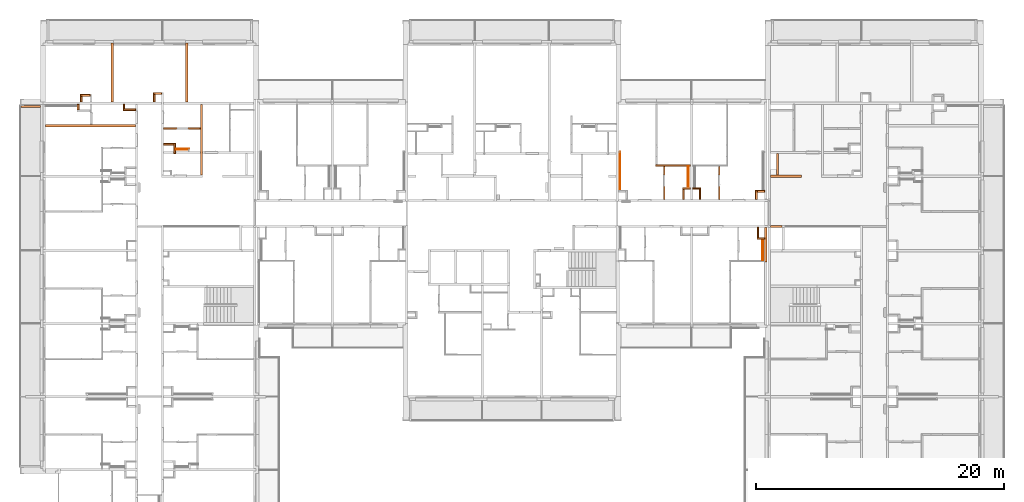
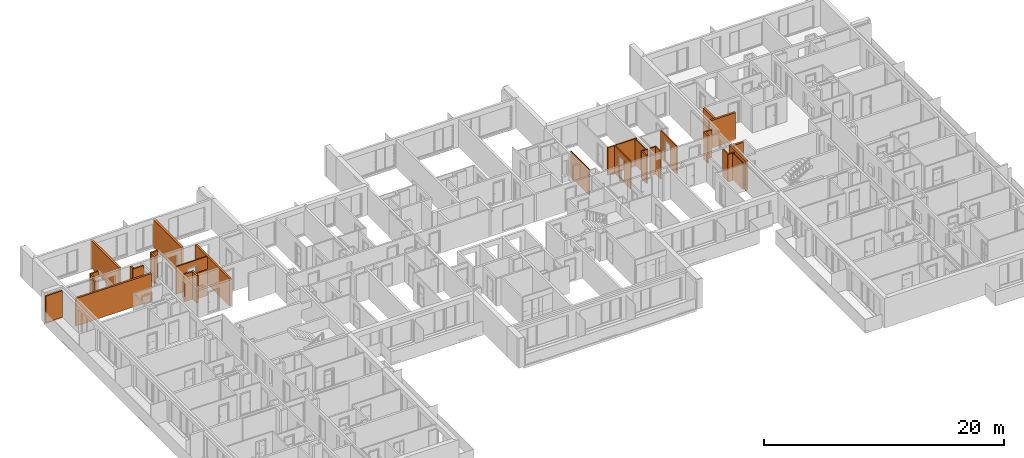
# One storey, part 57 of 64: 34 proxies, 3 openings.
"""IFC2X3 building model written with IfcOpenShell, lengths in millimetres."""

from ifc_helpers import new_model, entity, si_unit, converted_unit, derived_unit, money_unit, direction, frame, origin_with_axes, origin_2d_with_axis, place, context, subcontext, project, spatial, rectangle, extrude, faceted_brep, material, material_list, type_object, element, save


model = new_model("IFC2X3")

# Units and contexts
model_context = context("Model", 3, precision=0.01, world=origin_with_axes(), true_north=direction((0.34421633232, 0.938890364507)))
body_context = subcontext(model_context, "Body", "Model", "MODEL_VIEW")
ifc_project = project(units=[si_unit("LENGTHUNIT", "METRE", prefix="MILLI"), si_unit("AREAUNIT", "SQUARE_METRE"), si_unit("VOLUMEUNIT", "CUBIC_METRE"), converted_unit("PLANEANGLEUNIT", "DEGREE", entity("IfcPlaneAngleMeasure", 0.0174532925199), si_unit("PLANEANGLEUNIT", "RADIAN"), dimensions=[0, 0, 0, 0, 0, 0, 0]), si_unit("SOLIDANGLEUNIT", "STERADIAN"), money_unit("USD"), converted_unit("TIMEUNIT", "Year", entity("IfcTimeMeasure", 31556926.0), si_unit("TIMEUNIT", "SECOND"), dimensions=[0, 0, 1, 0, 0, 0, 0]), si_unit("MASSUNIT", "GRAM", prefix="KILO"), si_unit("THERMODYNAMICTEMPERATUREUNIT", "DEGREE_CELSIUS"), si_unit("LUMINOUSINTENSITYUNIT", "LUMEN"), si_unit("ENERGYUNIT", "JOULE", prefix="MEGA"), derived_unit("THERMALCONDUCTANCEUNIT", [(si_unit("POWERUNIT", "WATT"), 1), (si_unit("LENGTHUNIT", "METRE"), -1), (si_unit("THERMODYNAMICTEMPERATUREUNIT", "KELVIN"), -1)]), derived_unit("SPECIFICHEATCAPACITYUNIT", [(si_unit("ENERGYUNIT", "JOULE"), 1), (si_unit("MASSUNIT", "GRAM", prefix="KILO"), -1), (si_unit("THERMODYNAMICTEMPERATUREUNIT", "KELVIN"), -1)]), derived_unit("MASSDENSITYUNIT", [(si_unit("MASSUNIT", "GRAM", prefix="KILO"), 1), (si_unit("VOLUMEUNIT", "CUBIC_METRE"), -1)])], contexts=[model_context])

# Site, building, storey
site_placement = place(None, origin_with_axes())
site = spatial("IfcSite", under=ifc_project, at=site_placement, Name="USTRONIE MORSKIE", CompositionType="ELEMENT")
building_placement = place(site_placement, origin_with_axes())
building = spatial("IfcBuilding", under=site, at=building_placement, Name="Budynek", CompositionType="ELEMENT")
storey_placement = place(building_placement, frame((0.0, 0.0, 7000.0), z_axis=(0.0, 0.0, 1.0), x_axis=(1.0, 0.0, 0.0)))
storey = spatial("IfcBuildingStorey", under=building, at=storey_placement, Name="PIĘTRO 2", CompositionType="ELEMENT", Elevation=7000.0)

# Proxies
ifc_material_1 = material(Name="Bloczki silikatowe")
building_element_proxy_type_1 = type_object("IfcBuildingElementProxyType", Name="Bloczki silikatowe 120", PredefinedType="NOTDEFINED")
proxy_1_placement = place(storey_placement, frame((402317.920919, 737751.199937, -160.0), z_axis=(0.0, 0.0, 1.0), x_axis=(1.0, 0.0, 0.0)))
element("IfcBuildingElementProxy", 1, at=proxy_1_placement, inside=storey, type_object=building_element_proxy_type_1, material=ifc_material_1, Name="SW-04", context=body_context, shape_type="Brep", body=[
    faceted_brep([(720.0, 120.0, 0.0), (720.0, 0.0, 0.0), (100.0, 0.0, 0.0), (100.0, 120.0, 0.0), (720.0, 120.0, 2800.0), (720.0, 0.0, 2800.0), (100.0, 0.0, 2800.0), (100.0, 120.0, 2800.0)], [[[0, 1, 2, 3]], [[1, 0, 4, 5]], [[1, 5, 6, 2]], [[7, 3, 2, 6]], [[4, 0, 3, 7]], [[5, 4, 7, 6]]]),
])
proxy_2_placement = place(storey_placement, frame((408317.920919, 733851.183064, -160.0), z_axis=(0.0, 0.0, 1.0), x_axis=(-0.999999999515, 3.11484020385e-05, 0.0)))
element("IfcBuildingElementProxy", 2, at=proxy_2_placement, inside=storey, type_object=building_element_proxy_type_1, material=ifc_material_1, Name="SW-04", context=body_context, shape_type="Brep", body=[
    faceted_brep([(719.979557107, -1.13686837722e-10, 2800.0), (719.972081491, 120.0, 2800.0), (99.9962622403, 120.0, 2800.0), (100.000000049, -1.13686837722e-10, 2800.0), (719.979557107, -1.13686837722e-10, 0.0), (719.972081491, 120.0, 0.0), (99.9962622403, 120.0, 0.0), (100.000000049, -1.13686837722e-10, 0.0)], [[[0, 1, 2, 3]], [[1, 0, 4, 5]], [[1, 5, 6, 2]], [[7, 3, 2, 6]], [[4, 0, 3, 7]], [[5, 4, 7, 6]]]),
])

# Proxy, opening
proxy_3_placement = place(storey_placement, frame((400097.920919, 739651.199937, -160.0), z_axis=(0.0, 0.0, 1.0), x_axis=(0.0, -1.0, 0.0)))
proxy_3 = element("IfcBuildingElementProxy", 3, at=proxy_3_placement, inside=storey, type_object=building_element_proxy_type_1, material=ifc_material_1, Name="SW-04", context=body_context, shape_type="Brep", body=[
    faceted_brep([(2720.00090117, -60.0, 2800.0), (2720.00090117, 60.0, 2800.0), (59.9999999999, 60.0, 2800.0), (59.9999999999, -60.0, 2800.0), (2720.00090117, -60.0, 0.0), (2720.00090117, 60.0, 0.0), (59.9999999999, 60.0, 0.0), (59.9999999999, -60.0, 0.0)], [[[0, 1, 2, 3]], [[1, 0, 4, 5]], [[1, 5, 6, 2]], [[7, 3, 2, 6]], [[4, 0, 3, 7]], [[5, 4, 7, 6]]]),
])
opening_1_placement = place(proxy_3_placement, frame((1200.00090117, 0.0, 160.0), z_axis=(0.0, 0.0, 1.0), x_axis=(1.0, 0.0, 0.0)))
element("IfcOpeningElement", 4, at=opening_1_placement, cuts=proxy_3, Name="Dw.4", context=body_context, shape_type="SweptSolid", body=[
    extrude(rectangle(XDim=920.0, YDim=2070.0, at=origin_2d_with_axis()), frame((0.0, 120.0, 1035.0), z_axis=(0.0, -1.0, 0.0), x_axis=(-1.0, 0.0, 0.0)), (0.0, 0.0, 1.0), 360.0),
    extrude(rectangle(XDim=994.0, YDim=2177.0, at=origin_2d_with_axis()), frame((0.0, 60.0, 1088.5), z_axis=(0.0, -1.0, 0.0), x_axis=(-1.0, 0.0, 0.0)), (0.0, 0.0, -1.0), 120.0),
    extrude(rectangle(XDim=994.0, YDim=2177.0, at=origin_2d_with_axis()), frame((0.0, -60.0, 1088.5), z_axis=(0.0, 1.0, 0.0), x_axis=(-1.0, 0.0, 0.0)), (0.0, 0.0, -1.0), 120.0),
])

# Proxies
proxy_4_placement = place(storey_placement, frame((401717.920919, 737751.199937, -160.0), z_axis=(0.0, 0.0, 1.0), x_axis=(0.0, -1.0, 0.0)))
element("IfcBuildingElementProxy", 5, at=proxy_4_placement, inside=storey, type_object=building_element_proxy_type_1, material=ifc_material_1, Name="SW-04", context=body_context, shape_type="Brep", body=[
    faceted_brep([(820.00090117, -120.0, 2800.0), (820.00090117, 0.0, 2800.0), (0.0, 0.0, 2800.0), (0.0, -120.0, 2800.0), (820.00090117, -120.0, 0.0), (820.00090117, 0.0, 0.0), (0.0, 0.0, 0.0), (0.0, -120.0, 0.0)], [[[0, 1, 2, 3]], [[1, 0, 4, 5]], [[1, 5, 6, 2]], [[7, 3, 2, 6]], [[4, 0, 3, 7]], [[5, 4, 7, 6]]]),
])
proxy_5_placement = place(storey_placement, frame((407717.913329, 734751.199287, -160.0), z_axis=(0.0, 0.0, 1.0), x_axis=(3.11484009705e-05, -0.999999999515, 0.0)))
element("IfcBuildingElementProxy", 6, at=proxy_5_placement, inside=storey, type_object=building_element_proxy_type_1, material=ifc_material_1, Name="SW-04", context=body_context, shape_type="Brep", body=[
    faceted_brep([(899.997535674, 0.0, 0.0), (899.990060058, -120.0, 0.0), (79.996225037, -120.0, 0.0), (80.0000000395, 0.0, 0.0), (899.997535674, 0.0, 2800.0), (899.990060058, -120.0, 2800.0), (79.996225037, -120.0, 2800.0), (80.0000000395, 0.0, 2800.0)], [[[0, 1, 2, 3]], [[1, 0, 4, 5]], [[1, 5, 6, 2]], [[7, 3, 2, 6]], [[4, 0, 3, 7]], [[5, 4, 7, 6]]]),
])
proxy_6_placement = place(storey_placement, frame((402917.920919, 737751.199937, -160.0), z_axis=(0.0, 0.0, 1.0), x_axis=(0.0, -1.0, 0.0)))
element("IfcBuildingElementProxy", 7, at=proxy_6_placement, inside=storey, type_object=building_element_proxy_type_1, material=ifc_material_1, Name="SW-04", context=body_context, shape_type="Brep", body=[
    faceted_brep([(820.00090117, 120.0, 0.0), (820.00090117, 0.0, 0.0), (0.0, 0.0, 0.0), (0.0, 120.0, 0.0), (820.00090117, 120.0, 2800.0), (820.00090117, 0.0, 2800.0), (0.0, 0.0, 2800.0), (0.0, 120.0, 2800.0)], [[[0, 1, 2, 3]], [[1, 0, 4, 5]], [[1, 5, 6, 2]], [[7, 3, 2, 6]], [[4, 0, 3, 7]], [[5, 4, 7, 6]]]),
])
proxy_7_placement = place(storey_placement, frame((402317.920919, 737751.199937, -160.0), z_axis=(0.0, 0.0, 1.0), x_axis=(-1.0, 0.0, 0.0)))
element("IfcBuildingElementProxy", 8, at=proxy_7_placement, inside=storey, type_object=building_element_proxy_type_1, material=ifc_material_1, Name="SW-04", context=body_context, shape_type="Brep", body=[
    faceted_brep([(720.0, 0.0, 2800.0), (100.0, 0.0, 2800.0), (100.0, -120.0, 2800.0), (720.0, -120.0, 2800.0), (720.0, 0.0, 0.0), (100.0, 0.0, 0.0), (100.0, -120.0, 0.0), (720.0, -120.0, 0.0)], [[[0, 1, 2, 3]], [[4, 5, 1, 0]], [[5, 6, 2, 1]], [[3, 2, 6, 7]], [[7, 4, 0, 3]], [[7, 6, 5, 4]]]),
])

# Proxy, opening
proxy_8_placement = place(storey_placement, frame((404537.920919, 739651.199937, -160.0), z_axis=(0.0, 0.0, 1.0), x_axis=(0.0, -1.0, 0.0)))
proxy_8 = element("IfcBuildingElementProxy", 9, at=proxy_8_placement, inside=storey, type_object=building_element_proxy_type_1, material=ifc_material_1, Name="SW-04", context=body_context, shape_type="Brep", body=[
    faceted_brep([(2720.00090117, 60.0, 0.0), (2720.00090117, -60.0, 0.0), (59.9999999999, -60.0, 0.0), (59.9999999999, 60.0, 0.0), (2720.00090117, 60.0, 2800.0), (2720.00090117, -60.0, 2800.0), (59.9999999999, -60.0, 2800.0), (59.9999999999, 60.0, 2800.0)], [[[0, 1, 2, 3]], [[1, 0, 4, 5]], [[1, 5, 6, 2]], [[7, 3, 2, 6]], [[4, 0, 3, 7]], [[5, 4, 7, 6]]]),
])
opening_2_placement = place(proxy_8_placement, frame((1200.00090117, 0.0, 160.0), z_axis=(0.0, 0.0, 1.0), x_axis=(1.0, 0.0, 0.0)))
element("IfcOpeningElement", 10, at=opening_2_placement, cuts=proxy_8, Name="Dw.4", context=body_context, shape_type="SweptSolid", body=[
    extrude(rectangle(XDim=920.0, YDim=2070.0, at=origin_2d_with_axis()), frame((0.0, -120.0, 1035.0), z_axis=(0.0, -1.0, 0.0), x_axis=(-1.0, 0.0, 0.0)), (0.0, 0.0, -1.0), 360.0),
    extrude(rectangle(XDim=994.0, YDim=2177.0, at=origin_2d_with_axis()), frame((0.0, -60.0, 1088.5), z_axis=(0.0, -1.0, 0.0), x_axis=(-1.0, 0.0, 0.0)), (0.0, 0.0, 1.0), 120.0),
    extrude(rectangle(XDim=994.0, YDim=2177.0, at=origin_2d_with_axis()), frame((0.0, 60.0, 1088.5), z_axis=(0.0, 1.0, 0.0), x_axis=(-1.0, 0.0, 0.0)), (0.0, 0.0, 1.0), 120.0),
])

# Proxy
proxy_9_placement = place(storey_placement, frame((399467.913786, 739651.199937, -160.0), z_axis=(0.0, 0.0, 1.0), x_axis=(1.0, 0.0, 0.0)))
element("IfcBuildingElementProxy", 11, at=proxy_9_placement, inside=storey, type_object=building_element_proxy_type_1, material=ifc_material_1, Name="SW-04", context=body_context, shape_type="Brep", body=[
    faceted_brep([(-60.0, -59.9999999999, 2800.0), (2750.00713284, -59.9999999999, 2800.0), (2750.00713284, 59.9999999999, 2800.0), (-60.0, 59.9999999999, 2800.0), (-60.0, -59.9999999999, 0.0), (2750.00713284, -59.9999999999, 0.0), (2750.00713284, 59.9999999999, 0.0), (-60.0, 59.9999999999, 0.0)], [[[0, 1, 2, 3]], [[4, 5, 1, 0]], [[5, 6, 2, 1]], [[3, 2, 6, 7]], [[3, 7, 4, 0]], [[7, 6, 5, 4]]]),
])

# Proxy, opening
proxy_10_placement = place(storey_placement, frame((359617.920919, 742661.199128, -160.0), z_axis=(0.0, 0.0, 1.0), x_axis=(1.0, 0.0, 0.0)))
proxy_10 = element("IfcBuildingElementProxy", 12, at=proxy_10_placement, inside=storey, type_object=building_element_proxy_type_1, material=ifc_material_1, Name="SW-04", context=body_context, shape_type="Brep", body=[
    faceted_brep([(3049.99995481, -59.9999999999, 2800.0), (3049.99995481, 59.9999999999, 2800.0), (80.0, 59.9999999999, 2800.0), (80.0, -59.9999999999, 2800.0), (3049.99995481, -59.9999999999, 0.0), (3049.99995481, 59.9999999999, 0.0), (80.0, 59.9999999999, 0.0), (80.0, -59.9999999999, 0.0)], [[[0, 1, 2, 3]], [[1, 0, 4, 5]], [[1, 5, 6, 2]], [[7, 3, 2, 6]], [[4, 0, 3, 7]], [[5, 4, 7, 6]]]),
])
opening_3_placement = place(proxy_10_placement, frame((1600.00179464, 0.0, 160.0), z_axis=(0.0, 0.0, 1.0), x_axis=(1.0, 0.0, 0.0)))
element("IfcOpeningElement", 13, at=opening_3_placement, cuts=proxy_10, Name="Dw.4", context=body_context, shape_type="SweptSolid", body=[
    extrude(rectangle(XDim=920.0, YDim=2070.0, at=origin_2d_with_axis()), frame((0.0, -120.0, 1035.0), z_axis=(0.0, 1.0, 0.0), x_axis=(1.0, 0.0, 0.0)), (0.0, 0.0, 1.0), 360.0),
    extrude(rectangle(XDim=994.0, YDim=2177.0, at=origin_2d_with_axis()), frame((0.0, -59.9999999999, 1088.5), z_axis=(0.0, 1.0, 0.0), x_axis=(1.0, 0.0, 0.0)), (0.0, 0.0, -1.0), 120.0),
    extrude(rectangle(XDim=994.0, YDim=2177.0, at=origin_2d_with_axis()), frame((0.0, 60.0000000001, 1088.5), z_axis=(0.0, -1.0, 0.0), x_axis=(1.0, 0.0, 0.0)), (0.0, 0.0, -1.0), 120.0),
])

# Proxies
building_element_proxy_type_2 = type_object("IfcBuildingElementProxyType", Name="Bloczki silikatowe 180", PredefinedType="NOTDEFINED")
proxy_11_placement = place(storey_placement, frame((409257.920919, 738801.199036, -160.0), z_axis=(0.0, 0.0, 1.0), x_axis=(0.0, 1.0, 0.0)))
element("IfcBuildingElementProxy", 14, at=proxy_11_placement, inside=storey, type_object=building_element_proxy_type_2, material=ifc_material_1, Name="SW-02", context=body_context, shape_type="Brep", body=[
    faceted_brep([(1819.98043997, 90.0, 0.0), (1819.98043997, -90.0, 0.0), (100.0, -90.0, 0.0), (100.0, 90.0, 0.0), (1819.98043997, 90.0, 2800.0), (1819.98043997, -90.0, 2800.0), (100.0, -90.0, 2800.0), (100.0, 90.0, 2800.0)], [[[0, 1, 2, 3]], [[1, 0, 4, 5]], [[1, 5, 6, 2]], [[7, 3, 2, 6]], [[4, 0, 3, 7]], [[5, 4, 7, 6]]]),
])
proxy_12_placement = place(storey_placement, frame((408567.920917, 734741.199172, -160.0), z_axis=(0.0, 0.0, 1.0), x_axis=(1.0, -3.09952823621e-07, 0.0)))
element("IfcBuildingElementProxy", 15, at=proxy_12_placement, inside=storey, type_object=building_element_proxy_type_2, material=ifc_material_1, Name="SW-02", context=body_context, shape_type="Brep", body=[
    faceted_brep([(1049.99573206, -90.0, 2800.0), (1049.99476856, 90.0000000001, 2800.0), (99.9999751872, 90.0000000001, 2800.0), (100.000031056, -90.0, 2800.0), (1049.99573206, -90.0, 0.0), (1049.99476856, 90.0000000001, 0.0), (99.9999751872, 90.0000000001, 0.0), (100.000031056, -90.0, 0.0)], [[[0, 1, 2, 3]], [[1, 0, 4, 5]], [[1, 5, 6, 2]], [[7, 3, 2, 6]], [[4, 0, 3, 7]], [[5, 4, 7, 6]]]),
])
proxy_13_placement = place(storey_placement, frame((362757.920874, 744701.199036, -160.0), z_axis=(0.0, 0.0, 1.0), x_axis=(0.0, -1.0, 0.0)))
element("IfcBuildingElementProxy", 16, at=proxy_13_placement, inside=storey, type_object=building_element_proxy_type_2, material=ifc_material_1, Name="SW-02", context=body_context, shape_type="Brep", body=[
    faceted_brep([(100.0, -90.0, 2800.0), (5800.0, -90.0, 2800.0), (5800.0, 90.0, 2800.0), (100.0, 90.0, 2800.0), (100.0, -90.0, 0.0), (5800.0, -90.0, 0.0), (5800.0, 90.0, 0.0), (100.0, 90.0, 0.0)], [[[0, 1, 2, 3]], [[4, 5, 1, 0]], [[6, 2, 1, 5]], [[3, 2, 6, 7]], [[7, 4, 0, 3]], [[7, 6, 5, 4]]]),
])
proxy_14_placement = place(storey_placement, frame((357517.920919, 742871.199128, -160.0), z_axis=(0.0, 0.0, 1.0), x_axis=(-1.0, 0.0, 0.0)))
element("IfcBuildingElementProxy", 17, at=proxy_14_placement, inside=storey, type_object=building_element_proxy_type_2, material=ifc_material_1, Name="SW-02", context=body_context, shape_type="Brep", body=[
    faceted_brep([(7350.0, -90.0, 2800.0), (7350.0, 90.0, 2800.0), (80.0, 90.0, 2800.0), (80.0, -90.0, 2800.0), (7350.0, -90.0, 0.0), (7350.0, 90.0, 0.0), (80.0, 90.0, 0.0), (80.0, -90.0, 0.0)], [[[0, 1, 2, 3]], [[1, 0, 4, 5]], [[1, 5, 6, 2]], [[7, 3, 2, 6]], [[4, 0, 3, 7]], [[5, 4, 7, 6]]]),
])
ifc_material_2 = material(Name="-Pustka powietrzna")
ifc_material_3 = material(Name="Płyta GK")
ifc_material_list_1 = material_list([ifc_material_2, ifc_material_3, ifc_material_3])
building_element_proxy_type_3 = type_object("IfcBuildingElementProxyType", Name="330-SD GK 2-warstwy 75", PredefinedType="NOTDEFINED")
proxy_15_placement = place(storey_placement, frame((408072.933272, 733851.191629, -160.0), z_axis=(0.0, 0.0, 1.0), x_axis=(0.0, -1.0, 0.0)))
element("IfcBuildingElementProxy", 18, at=proxy_15_placement, inside=storey, type_object=building_element_proxy_type_3, material=ifc_material_list_1, Name="Ściana-009", context=body_context, shape_type="Brep", body=[
    faceted_brep([(1839.99249676, 25.0, 160.0), (120.00171322, 25.0, 160.0), (120.00171322, 25.0, 2800.0), (1839.99249676, 25.0, 2800.0), (120.0001558, -25.0, 160.0), (1839.99249676, -25.0, 160.0), (120.0001558, -25.0, 2800.0), (1839.99249676, -25.0, 2800.0)], [[[0, 1, 2, 3]], [[4, 1, 0, 5]], [[1, 4, 6, 2]], [[7, 3, 2, 6]], [[5, 0, 3, 7]], [[4, 5, 7, 6]]]),
    faceted_brep([(1839.99249676, -25.0, 145.0), (120.0001558, -25.0, 145.0), (120.0001558, -25.0, 2800.0), (1839.99249676, -25.0, 2800.0), (119.999766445, -37.5, 145.0), (1839.99249676, -37.5, 145.0), (119.999766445, -37.5, 2800.0), (1839.99249676, -37.5, 2800.0)], [[[0, 1, 2, 3]], [[4, 1, 0, 5]], [[1, 4, 6, 2]], [[7, 3, 2, 6]], [[5, 0, 3, 7]], [[4, 5, 7, 6]]]),
    faceted_brep([(1839.99249676, -37.5, 145.0), (119.999766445, -37.5, 145.0), (119.999766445, -37.5, 2800.0), (1839.99249676, -37.5, 2800.0), (119.99937709, -50.0, 145.0), (1839.99249676, -50.0, 145.0), (119.99937709, -50.0, 2800.0), (1839.99249676, -50.0, 2800.0)], [[[0, 1, 2, 3]], [[4, 1, 0, 5]], [[1, 4, 6, 2]], [[7, 3, 2, 6]], [[5, 0, 3, 7]], [[4, 5, 7, 6]]]),
])
proxy_16_placement = place(storey_placement, frame((402072.933272, 739651.199937, -180.0), z_axis=(0.0, 0.0, 1.0), x_axis=(0.0, -1.0, 0.0)))
element("IfcBuildingElementProxy", 19, at=proxy_16_placement, inside=storey, type_object=building_element_proxy_type_3, material=ifc_material_list_1, Name="Ściana-009", context=body_context, shape_type="Brep", body=[
    faceted_brep([(1780.0, 25.0, 180.0), (59.9999999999, 25.0, 180.0), (59.9999999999, 25.0, 2820.0), (1780.0, 25.0, 2820.0), (59.9999999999, -25.0, 180.0), (1780.0, -25.0, 180.0), (59.9999999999, -25.0, 2820.0), (1780.0, -25.0, 2820.0)], [[[0, 1, 2, 3]], [[4, 1, 0, 5]], [[1, 4, 6, 2]], [[6, 7, 3, 2]], [[5, 0, 3, 7]], [[4, 5, 7, 6]]]),
    faceted_brep([(1780.0, -25.0, 165.0), (59.9999999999, -25.0, 165.0), (59.9999999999, -25.0, 2820.0), (1780.0, -25.0, 2820.0), (59.9999999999, -37.5, 165.0), (1780.0, -37.5, 165.0), (59.9999999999, -37.5, 2820.0), (1780.0, -37.5, 2820.0)], [[[0, 1, 2, 3]], [[4, 1, 0, 5]], [[1, 4, 6, 2]], [[6, 7, 3, 2]], [[5, 0, 3, 7]], [[4, 5, 7, 6]]]),
    faceted_brep([(1780.0, -37.5, 165.0), (59.9999999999, -37.5, 165.0), (59.9999999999, -37.5, 2820.0), (1780.0, -37.5, 2820.0), (59.9999999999, -50.0, 165.0), (1780.0, -50.0, 165.0), (59.9999999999, -50.0, 2820.0), (1780.0, -50.0, 2820.0)], [[[0, 1, 2, 3]], [[4, 1, 0, 5]], [[1, 4, 6, 2]], [[6, 7, 3, 2]], [[5, 0, 3, 7]], [[4, 5, 7, 6]]]),
])
ifc_material_list_2 = material_list([ifc_material_3, ifc_material_3, ifc_material_2])
proxy_17_placement = place(storey_placement, frame((360517.922714, 741001.179476, -180.0), z_axis=(0.0, 0.0, 1.0), x_axis=(1.0, 0.0, 0.0)))
element("IfcBuildingElementProxy", 20, at=proxy_17_placement, inside=storey, type_object=building_element_proxy_type_3, material=ifc_material_list_2, Name="Ściana-009", context=body_context, shape_type="Brep", body=[
    faceted_brep([(1250.0, 12.5, 165.0), (1250.0, 25.0, 165.0), (1250.0, 25.0, 2820.0), (1250.0, 12.5, 2820.0), (150.0, 25.0, 165.0), (150.0, 12.5, 165.0), (150.0, 25.0, 2820.0), (150.0, 12.5, 2820.0)], [[[0, 1, 2, 3]], [[4, 1, 0, 5]], [[1, 4, 6, 2]], [[2, 6, 7, 3]], [[5, 0, 3, 7]], [[4, 5, 7, 6]]]),
    faceted_brep([(1237.5, 0.0, 165.0), (1237.5, 12.5, 165.0), (1237.5, 12.5, 2820.0), (1237.5, 0.0, 2820.0), (150.0, 12.5, 165.0), (150.0, 0.0, 165.0), (150.0, 12.5, 2820.0), (150.0, 0.0, 2820.0)], [[[0, 1, 2, 3]], [[4, 1, 0, 5]], [[1, 4, 6, 2]], [[2, 6, 7, 3]], [[5, 0, 3, 7]], [[4, 5, 7, 6]]]),
    faceted_brep([(1225.0, -50.0, 180.0), (1225.0, 0.0, 180.0), (1225.0, 0.0, 2820.0), (1225.0, -50.0, 2820.0), (150.0, 0.0, 180.0), (150.0, -50.0, 180.0), (150.0, 0.0, 2820.0), (150.0, -50.0, 2820.0)], [[[0, 1, 2, 3]], [[4, 1, 0, 5]], [[1, 4, 6, 2]], [[2, 6, 7, 3]], [[5, 0, 3, 7]], [[4, 5, 7, 6]]]),
])
proxy_18_placement = place(storey_placement, frame((396547.898799, 737501.202288, -180.0), z_axis=(0.0, 0.0, 1.0), x_axis=(0.0, 1.0, 0.0)))
element("IfcBuildingElementProxy", 21, at=proxy_18_placement, inside=storey, type_object=building_element_proxy_type_3, material=ifc_material_list_1, Name="Ściana-009", context=body_context, shape_type="Brep", body=[
    faceted_brep([(150.0, 0.0, 180.0), (3220.00000001, 0.0, 180.0), (3220.00000001, 0.0, 2820.0), (150.0, 0.0, 2820.0), (3220.00000001, 50.0, 180.0), (150.0, 50.0, 180.0), (3220.00000001, 50.0, 2820.0), (150.0, 50.0, 2820.0)], [[[0, 1, 2, 3]], [[4, 1, 0, 5]], [[1, 4, 6, 2]], [[6, 7, 3, 2]], [[5, 0, 3, 7]], [[4, 5, 7, 6]]]),
    faceted_brep([(150.0, -12.5, 165.0), (3270.00000001, -12.5, 165.0), (3270.00000001, -12.5, 2820.0), (150.0, -12.5, 2820.0), (3270.00000001, 0.0, 165.0), (150.0, 0.0, 165.0), (3270.00000001, 0.0, 2820.0), (150.0, 0.0, 2820.0)], [[[0, 1, 2, 3]], [[4, 1, 0, 5]], [[1, 4, 6, 2]], [[6, 7, 3, 2]], [[5, 0, 3, 7]], [[4, 5, 7, 6]]]),
    faceted_brep([(150.0, -25.0, 165.0), (3282.50000001, -25.0, 165.0), (3282.50000001, -25.0, 2820.0), (150.0, -25.0, 2820.0), (3282.50000001, -12.5, 165.0), (150.0, -12.5, 165.0), (3282.50000001, -12.5, 2820.0), (150.0, -12.5, 2820.0)], [[[0, 1, 2, 3]], [[4, 1, 0, 5]], [[1, 4, 6, 2]], [[6, 7, 3, 2]], [[5, 0, 3, 7]], [[4, 5, 7, 6]]]),
])
building_element_proxy_type_4 = type_object("IfcBuildingElementProxyType", Name="Bloczki silikatowe 150", PredefinedType="NOTDEFINED")
proxy_19_placement = place(storey_placement, frame((360517.922714, 740711.179476, -160.0), z_axis=(0.0, 0.0, 1.0), x_axis=(0.0, 1.0, 0.0)))
element("IfcBuildingElementProxy", 22, at=proxy_19_placement, inside=storey, type_object=building_element_proxy_type_4, material=ifc_material_1, Name="SW-04", context=body_context, shape_type="Brep", body=[
    faceted_brep([(740.00090117, 0.0, 0.0), (740.00090117, -150.0, 0.0), (-90.0, -150.0, 0.0), (-90.0, 0.0, 0.0), (740.00090117, 0.0, 2800.0), (740.00090117, -150.0, 2800.0), (-90.0, -150.0, 2800.0), (-90.0, 0.0, 2800.0)], [[[0, 1, 2, 3]], [[1, 0, 4, 5]], [[1, 5, 6, 2]], [[7, 3, 2, 6]], [[4, 0, 3, 7]], [[5, 4, 7, 6]]]),
])
proxy_20_placement = place(storey_placement, frame((407617.937739, 737501.202288, -160.0), z_axis=(0.0, 0.0, 1.0), x_axis=(1.0, 0.0, 0.0)))
element("IfcBuildingElementProxy", 23, at=proxy_20_placement, inside=storey, type_object=building_element_proxy_type_4, material=ifc_material_1, Name="SW-03", context=body_context, shape_type="Brep", body=[
    faceted_brep([(599.983179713, 0.0, 2800.0), (599.983179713, 150.0, 2800.0), (0.0, 150.0, 2800.0), (0.0, 0.0, 2800.0), (599.983179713, 0.0, 0.0), (599.983179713, 150.0, 0.0), (0.0, 150.0, 0.0), (0.0, 0.0, 0.0)], [[[0, 1, 2, 3]], [[1, 0, 4, 5]], [[1, 5, 6, 2]], [[7, 3, 2, 6]], [[4, 0, 3, 7]], [[5, 4, 7, 6]]]),
])
proxy_21_placement = place(storey_placement, frame((407617.937739, 736851.19885, -160.0), z_axis=(0.0, 0.0, 1.0), x_axis=(0.0, 1.0, 0.0)))
element("IfcBuildingElementProxy", 24, at=proxy_21_placement, inside=storey, type_object=building_element_proxy_type_4, material=ifc_material_1, Name="SW-03", context=body_context, shape_type="Brep", body=[
    faceted_brep([(800.003437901, 0.0, 2800.0), (800.003437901, 150.0, 2800.0), (80.0001859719, 150.0, 2800.0), (80.0001859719, 0.0, 2800.0), (800.003437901, 0.0, 0.0), (800.003437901, 150.0, 0.0), (80.0001859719, 150.0, 0.0), (80.0001859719, 0.0, 0.0)], [[[0, 1, 2, 3]], [[1, 0, 4, 5]], [[1, 5, 6, 2]], [[7, 3, 2, 6]], [[4, 0, 3, 7]], [[5, 4, 7, 6]]]),
])
proxy_22_placement = place(storey_placement, frame((358942.921749, 745476.199937, -160.0), z_axis=(0.0, 0.0, 1.0), x_axis=(0.0, -1.0, 0.0)))
element("IfcBuildingElementProxy", 25, at=proxy_22_placement, inside=storey, type_object=building_element_proxy_type_4, material=ifc_material_1, Name="SW-03", context=body_context, shape_type="Brep", body=[
    faceted_brep([(675.00090117, -74.9999999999, 2800.0), (675.00090117, 75.0000000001, 2800.0), (75.0, 75.0, 2800.0), (75.0, -75.0, 2800.0), (675.00090117, -74.9999999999, 0.0), (675.00090117, 75.0000000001, 0.0), (75.0, 75.0, 0.0), (75.0, -75.0, 0.0)], [[[0, 1, 2, 3]], [[1, 0, 4, 5]], [[1, 5, 6, 2]], [[7, 3, 2, 6]], [[4, 0, 3, 7]], [[5, 4, 7, 6]]]),
])
proxy_23_placement = place(storey_placement, frame((356477.920018, 744701.199036, -160.0), z_axis=(0.0, 0.0, 1.0), x_axis=(0.0, -1.0, 0.0)))
element("IfcBuildingElementProxy", 26, at=proxy_23_placement, inside=storey, type_object=building_element_proxy_type_4, material=ifc_material_1, Name="SW-04", context=body_context, shape_type="Brep", body=[
    faceted_brep([(450.0, 90.0, 0.0), (450.0, -60.0, 0.0), (100.0, -60.0, 0.0), (100.0, 90.0, 0.0), (450.0, 90.0, 2800.0), (450.0, -60.0, 2800.0), (100.0, -60.0, 2800.0), (100.0, 90.0, 2800.0)], [[[0, 1, 2, 3]], [[1, 0, 4, 5]], [[1, 5, 6, 2]], [[7, 3, 2, 6]], [[4, 0, 3, 7]], [[5, 4, 7, 6]]]),
])
proxy_24_placement = place(storey_placement, frame((352792.920919, 744091.199036, -160.0), z_axis=(0.0, 0.0, 1.0), x_axis=(0.0, 1.0, 0.0)))
element("IfcBuildingElementProxy", 27, at=proxy_24_placement, inside=storey, type_object=building_element_proxy_type_4, material=ifc_material_1, Name="SW-03", context=body_context, shape_type="Brep", body=[
    faceted_brep([(510.0, -75.0, 2800.0), (510.0, 75.0, 2800.0), (59.9999999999, 75.0, 2800.0), (59.9999999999, -75.0, 2800.0), (510.0, -75.0, 0.0), (510.0, 75.0, 0.0), (59.9999999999, 75.0, 0.0), (59.9999999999, -75.0, 0.0)], [[[0, 1, 2, 3]], [[1, 0, 4, 5]], [[1, 5, 6, 2]], [[7, 3, 2, 6]], [[4, 0, 3, 7]], [[5, 4, 7, 6]]]),
])
proxy_25_placement = place(storey_placement, frame((359617.920897, 741301.180377, -160.0), z_axis=(0.0, 0.0, 1.0), x_axis=(1.0, 0.0, 0.0)))
element("IfcBuildingElementProxy", 28, at=proxy_25_placement, inside=storey, type_object=building_element_proxy_type_4, material=ifc_material_1, Name="SW-04", context=body_context, shape_type="Brep", body=[
    faceted_brep([(900.001816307, 0.0, 2800.0), (900.001816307, 150.0, 2800.0), (80.0000216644, 150.0, 2800.0), (80.0000216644, 0.0, 2800.0), (900.001816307, 0.0, 0.0), (900.001816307, 150.0, 0.0), (80.0000216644, 150.0, 0.0), (80.0000216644, 0.0, 0.0)], [[[0, 1, 2, 3]], [[1, 0, 4, 5]], [[1, 5, 6, 2]], [[7, 3, 2, 6]], [[4, 0, 3, 7]], [[5, 4, 7, 6]]]),
])
proxy_26_placement = place(storey_placement, frame((357517.920919, 744191.199036, -160.0), z_axis=(0.0, 0.0, 1.0), x_axis=(-1.0, 0.0, 0.0)))
element("IfcBuildingElementProxy", 29, at=proxy_26_placement, inside=storey, type_object=building_element_proxy_type_4, material=ifc_material_1, Name="SW-04", context=body_context, shape_type="Brep", body=[
    faceted_brep([(1100.00090117, 90.0, 0.0), (1100.00090117, -59.9999999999, 0.0), (80.0, -59.9999999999, 0.0), (80.0, 90.0, 0.0), (1100.00090117, 90.0, 2800.0), (1100.00090117, -59.9999999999, 2800.0), (80.0, -59.9999999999, 2800.0), (80.0, 90.0, 2800.0)], [[[0, 1, 2, 3]], [[1, 0, 4, 5]], [[1, 5, 6, 2]], [[7, 3, 2, 6]], [[4, 0, 3, 7]], [[5, 4, 7, 6]]]),
])
proxy_27_placement = place(storey_placement, frame((359617.920919, 745476.199937, -160.0), z_axis=(0.0, 0.0, 1.0), x_axis=(-1.0, 0.0, 0.0)))
element("IfcBuildingElementProxy", 30, at=proxy_27_placement, inside=storey, type_object=building_element_proxy_type_4, material=ifc_material_1, Name="SW-03", context=body_context, shape_type="Brep", body=[
    faceted_brep([(749.999170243, -75.0, 2800.0), (749.999170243, 75.0, 2800.0), (80.0, 75.0, 2800.0), (80.0, -75.0, 2800.0), (749.999170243, -75.0, 0.0), (749.999170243, 75.0, 0.0), (80.0, 75.0, 0.0), (80.0, -75.0, 0.0)], [[[0, 1, 2, 3]], [[1, 0, 4, 5]], [[1, 5, 6, 2]], [[7, 3, 2, 6]], [[4, 0, 3, 7]], [[5, 4, 7, 6]]]),
])
proxy_28_placement = place(storey_placement, frame((353842.920919, 745311.199036, -160.0), z_axis=(0.0, 0.0, 1.0), x_axis=(-1.0, 0.0, 0.0)))
element("IfcBuildingElementProxy", 31, at=proxy_28_placement, inside=storey, type_object=building_element_proxy_type_4, material=ifc_material_1, Name="Œciana-007", context=body_context, shape_type="Brep", body=[
    faceted_brep([(875.0, -90.0, 2800.0), (875.0, 59.9999999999, 2800.0), (75.0, 59.9999999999, 2800.0), (75.0, -90.0, 2800.0), (875.0, -90.0, 0.0), (875.0, 59.9999999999, 0.0), (75.0, 59.9999999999, 0.0), (75.0, -90.0, 0.0)], [[[0, 1, 2, 3]], [[1, 0, 4, 5]], [[1, 5, 6, 2]], [[7, 3, 2, 6]], [[4, 0, 3, 7]], [[5, 4, 7, 6]]]),
])
proxy_29_placement = place(storey_placement, frame((353057.920919, 745311.199036, -160.0), z_axis=(0.0, 0.0, 1.0), x_axis=(0.0, -1.0, 0.0)))
element("IfcBuildingElementProxy", 32, at=proxy_29_placement, inside=storey, type_object=building_element_proxy_type_4, material=ifc_material_1, Name="Œciana-007", context=body_context, shape_type="Brep", body=[
    faceted_brep([(510.0, -90.0, 2800.0), (510.0, 60.0, 2800.0), (59.9999999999, 60.0, 2800.0), (59.9999999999, -90.0, 2800.0), (510.0, -90.0, 0.0), (510.0, 60.0, 0.0), (59.9999999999, 60.0, 0.0), (59.9999999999, -90.0, 0.0)], [[[0, 1, 2, 3]], [[1, 0, 4, 5]], [[1, 5, 6, 2]], [[7, 3, 2, 6]], [[4, 0, 3, 7]], [[5, 4, 7, 6]]]),
])
ifc_material_4 = material(Name="Beton konstrukcyjny B25")
building_element_proxy_type_5 = type_object("IfcBuildingElementProxyType", Name="Beton konstrukcyjny B25 200", PredefinedType="NOTDEFINED")
proxy_30_placement = place(storey_placement, frame((355567.920919, 744701.199036, -230.0), z_axis=(0.0, 0.0, 1.0), x_axis=(0.0, 1.0, 0.0)))
element("IfcBuildingElementProxy", 33, at=proxy_30_placement, inside=storey, type_object=building_element_proxy_type_5, material=ifc_material_4, Name="SW-01", context=body_context, shape_type="Brep", body=[
    faceted_brep([(100.0, -100.0, 70.0), (4650.0, -100.0, 70.0), (4650.0, -100.0, 0.0), (4850.0, -100.0, 0.0), (4850.0, -100.0, 2870.0), (100.0, -100.0, 2870.0), (4650.0, 100.0, 70.0), (100.0, 100.0, 70.0), (4650.0, 100.0, 0.0), (4850.0, 100.0, 0.0), (4850.0, 100.0, 2870.0), (100.0, 100.0, 2870.0)], [[[0, 1, 2, 3, 4, 5]], [[6, 1, 0, 7]], [[8, 2, 1, 6]], [[3, 2, 8, 9]], [[3, 9, 10, 4]], [[4, 10, 11, 5]], [[11, 7, 0, 5]], [[8, 6, 7, 11, 10, 9]]]),
])
proxy_31_placement = place(storey_placement, frame((408317.920919, 731891.199132, -160.0), z_axis=(0.0, 0.0, 1.0), x_axis=(0.0, 1.0, 0.0)))
element("IfcBuildingElementProxy", 34, at=proxy_31_placement, inside=storey, type_object=building_element_proxy_type_5, material=ifc_material_4, Name="SW-01", context=body_context, shape_type="Brep", body=[
    faceted_brep([(2780.0, 100.0, 0.0), (2780.0, 100.0, 2800.0), (2779.99993801, -100.0, 2800.0), (2779.99993801, -100.0, 0.0), (2760.0, 100.0, 3000.0), (2760.0, 100.0, 2800.0), (0.0, 100.0, 0.0), (0.0, 100.0, 3000.0), (2760.0, -100.0, 2800.0), (2760.0, -100.0, 3000.0), (0.0, -100.0, 3000.0), (0.0, -100.0, 0.0)], [[[0, 1, 2, 3]], [[4, 5, 1, 0, 6, 7]], [[5, 8, 2, 1]], [[2, 8, 9, 10, 11, 3]], [[11, 6, 0, 3]], [[5, 4, 9, 8]], [[10, 7, 6, 11]], [[10, 9, 4, 7]]]),
])
proxy_32_placement = place(storey_placement, frame((411187.920963, 738801.199036, -160.0), z_axis=(0.0, 0.0, 1.0), x_axis=(-1.0, 0.0, 0.0)))
element("IfcBuildingElementProxy", 35, at=proxy_32_placement, inside=storey, type_object=building_element_proxy_type_5, material=ifc_material_4, Name="SW-01", context=body_context, shape_type="Brep", body=[
    faceted_brep([(2520.0000443, -100.0, 2800.0), (2520.0000443, 100.0, 2800.0), (0.0, 100.0, 2800.0), (0.0, -100.0, 2800.0), (2520.0000443, -100.0, 0.0), (2520.0000443, 100.0, 0.0), (0.0, 100.0, 0.0), (0.0, -100.0, 0.0)], [[[0, 1, 2, 3]], [[1, 0, 4, 5]], [[1, 5, 6, 2]], [[7, 3, 2, 6]], [[4, 0, 3, 7]], [[5, 4, 7, 6]]]),
])
proxy_33_placement = place(storey_placement, frame((361567.920919, 744701.199036, -230.0), z_axis=(0.0, 0.0, 1.0), x_axis=(0.0, 1.0, 0.0)))
element("IfcBuildingElementProxy", 36, at=proxy_33_placement, inside=storey, type_object=building_element_proxy_type_5, material=ifc_material_4, Name="SW-01", context=body_context, shape_type="Brep", body=[
    faceted_brep([(100.0, -100.0, 70.0), (4650.0, -100.0, 70.0), (4650.0, -100.0, 0.0), (4850.0, -100.0, 0.0), (4850.0, -100.0, 2870.0), (100.0, -100.0, 2870.0), (4650.0, 100.0, 70.0), (100.0, 100.0, 70.0), (4650.0, 100.0, 0.0), (4850.0, 100.0, 0.0), (4850.0, 100.0, 2870.0), (100.0, 100.0, 2870.0)], [[[0, 1, 2, 3, 4, 5]], [[6, 1, 0, 7]], [[8, 2, 1, 6]], [[3, 2, 8, 9]], [[3, 9, 10, 4]], [[4, 10, 11, 5]], [[11, 7, 0, 5]], [[8, 6, 7, 11, 10, 9]]]),
])
ifc_material_5 = material(Name="Laminat")
building_element_proxy_type_6 = type_object("IfcBuildingElementProxyType", Name="Laminat 150", PredefinedType="NOTDEFINED")
proxy_34_placement = place(storey_placement, frame((349757.920919, 744416.199036, -160.0), z_axis=(0.0, 0.0, 1.0), x_axis=(-1.0, 0.0, 0.0)))
element("IfcBuildingElementProxy", 37, at=proxy_34_placement, inside=storey, type_object=building_element_proxy_type_6, material=ifc_material_5, Name="SW-03", context=body_context, shape_type="Brep", body=[
    faceted_brep([(0.0, 75.0, 9.99999623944), (1590.0, 75.0, 10.0000009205), (1590.0, -75.0, 10.0000009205), (0.0, -75.0, 9.99999623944), (0.0, 75.0, 2789.99999183), (1590.0, 75.0, 2789.99999183), (1547.49980813, 75.0, 14.9999951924), (1572.49971536, 75.0, 14.9999951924), (1572.49971536, 75.0, 109.999995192), (4.99980812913, 75.0, 109.999995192), (4.99980812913, 75.0, 84.9999951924), (1547.49980813, 75.0, 84.9999951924), (1590.0, -75.0, 2789.99999183), (0.0, -75.0, 2789.99999183), (4.99980812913, -75.0, 109.999995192), (1572.49971536, -75.0, 109.999995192), (1572.49971536, -75.0, 14.9999951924), (1547.49980813, -75.0, 14.9999951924), (1547.49980813, -75.0, 84.9999951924), (4.99980812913, -75.0, 84.9999951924)], [[[0, 1, 2, 3]], [[4, 5, 1, 0], [6, 7, 8, 9, 10, 11]], [[12, 2, 1, 5]], [[3, 2, 12, 13], [14, 15, 16, 17, 18, 19]], [[13, 4, 0, 3]], [[13, 12, 5, 4]], [[17, 16, 7, 6]], [[15, 8, 7, 16]], [[9, 8, 15, 14]], [[19, 10, 9, 14]], [[18, 11, 10, 19]], [[17, 6, 11, 18]]]),
])

save(model, "model.ifc")
